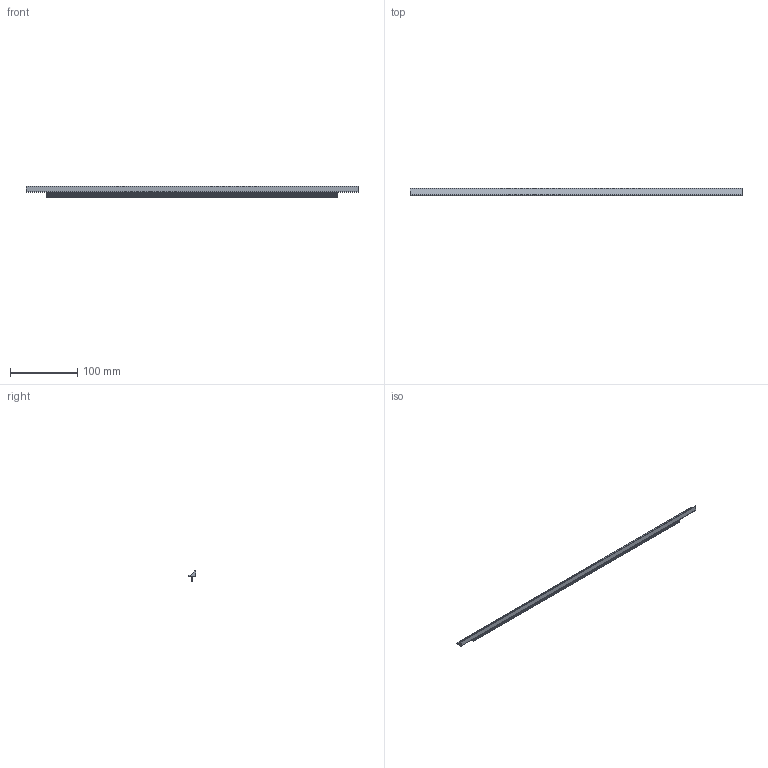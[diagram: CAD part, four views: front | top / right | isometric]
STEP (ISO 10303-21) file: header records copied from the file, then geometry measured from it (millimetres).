
FILE_DESCRIPTION( ( 'STEP AP214' ), '1' );
FILE_NAME( 'C:/Users/KOSH/Desktop/2021/Sunil/New folder/9208100.stp', '2021-11-15T12:56:40', ( '' ), ( '' ), ' ', 'PARTsolutions', ' ' );
FILE_SCHEMA( ( 'AUTOMOTIVE_DESIGN { 1 0 10303 214 1 1 1 1 }' ) );
Length unit declared in the file: millimetre
Products named in the file (1): _9208100
Bounding box: 495 x 10.49 x 16.51 mm (x, y, z)
Volume: 26560.2 mm3; surface area: 24711.6 mm2
Topology: 1 solids, 1 shells, 29 faces, 78 edges, 52 vertices
Faces by surface type: plane 25, cylinder 4
Entity records: 1148 total; most frequent: CARTESIAN_POINT 160, ORIENTED_EDGE 156, DIRECTION 146, EDGE_CURVE 78, LINE 70, VECTOR 70, VERTEX_POINT 52, AXIS2_PLACEMENT_3D 38
